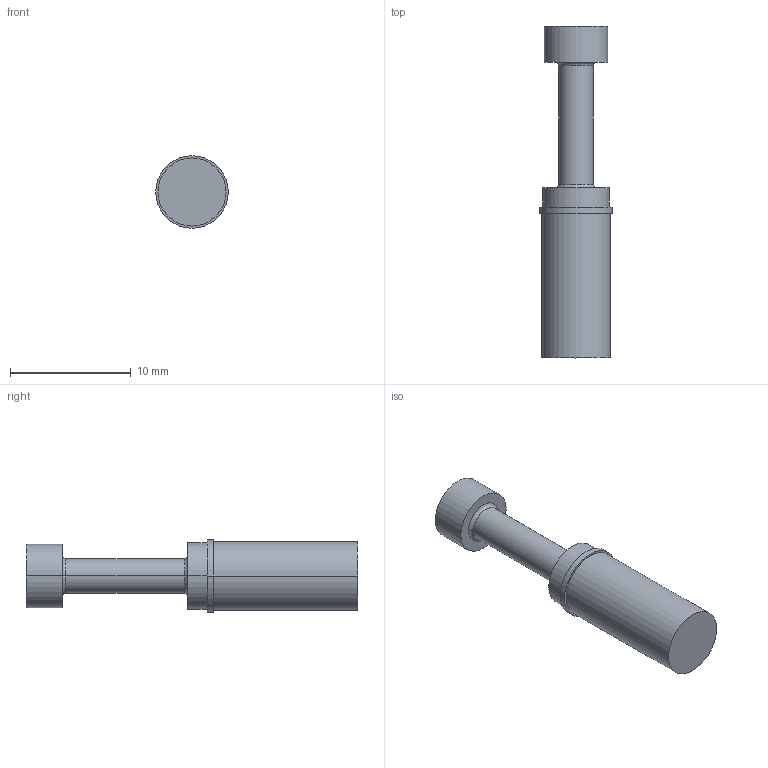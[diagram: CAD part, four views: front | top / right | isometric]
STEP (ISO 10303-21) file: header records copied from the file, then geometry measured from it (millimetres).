
FILE_DESCRIPTION (( 'STEP AP203' ), '1' );
FILE_NAME ('Montiert L.step', '2022-01-13T12:31:06', ( '' ), ( '' ), 'SwSTEP 2.0', 'SolidWorks 2021', '' );
FILE_SCHEMA (( 'CONFIG_CONTROL_DESIGN' ));
Length unit declared in the file: millimetre
Products named in the file (1): Montiert L
Bounding box: 6 x 27.5 x 6 mm (x, y, z)
Volume: 488.3 mm3; surface area: 480 mm2
Topology: 1 solids, 1 shells, 20 faces, 38 edges, 24 vertices
Faces by surface type: cylinder 10, plane 6, torus 4
Entity records: 595 total; most frequent: DIRECTION 108, CARTESIAN_POINT 83, ORIENTED_EDGE 76, AXIS2_PLACEMENT_3D 49, EDGE_CURVE 38, CIRCLE 28, EDGE_LOOP 24, VERTEX_POINT 24
